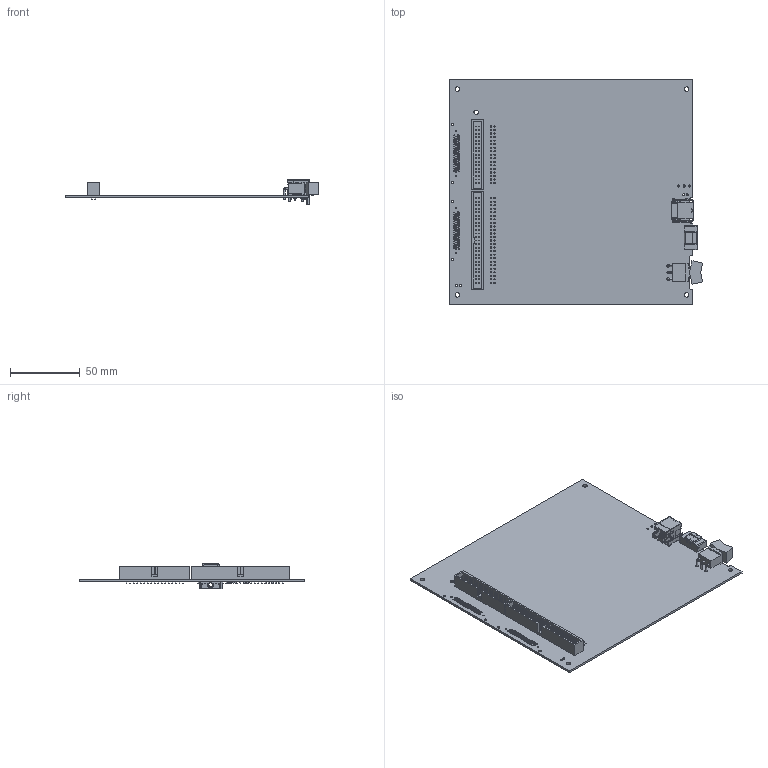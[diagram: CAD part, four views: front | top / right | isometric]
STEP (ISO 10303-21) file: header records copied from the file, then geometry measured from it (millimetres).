
FILE_DESCRIPTION((''),'2;1');
FILE_NAME('CU_USB_6341_6361_OEM','2012-04-20T',('dkendric'),(''),'PRO/ENGINEER BY PARAMETRIC TECHNOLOGY CORPORATION, 2010230','PRO/ENGINEER BY PARAMETRIC TECHNOLOGY CORPORATION, 2010230','');
FILE_SCHEMA(('CONFIG_CONTROL_DESIGN'));
Products named in the file (1): CU_USB_6341_6361_OEM
Bounding box: 182.3 x 162.56 x 18.36 mm (x, y, z)
Volume: 54027.9 mm3; surface area: 70738.5 mm2
Topology: 3 solids, 4 shells, 2974 faces, 8264 edges, 5442 vertices
Faces by surface type: plane 1888, cylinder 1028, bspline 40, torus 10, sphere 4, cone 2, extrusion 2
Entity records: 97128 total; most frequent: CARTESIAN_POINT 18163, ORIENTED_EDGE 16448, DIRECTION 16094, EDGE_CURVE 8224, VECTOR 5960, LINE 5958, VERTEX_POINT 5480, AXIS2_PLACEMENT_3D 5067
